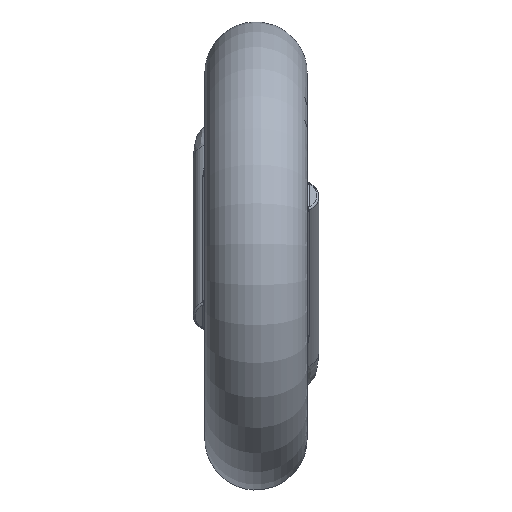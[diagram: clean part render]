
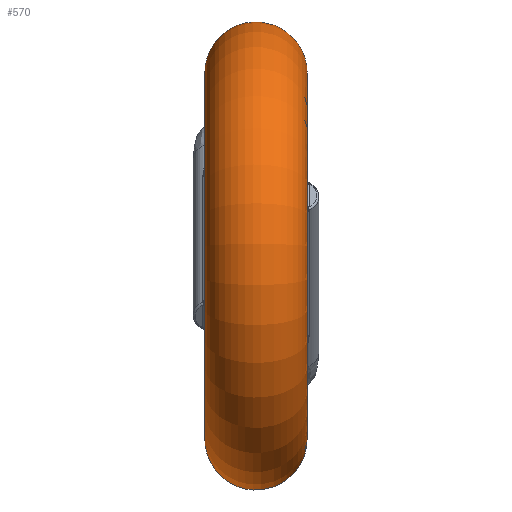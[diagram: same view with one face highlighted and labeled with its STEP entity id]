
A CAD part, left-side view. The second image highlights one B-rep face of the part: STEP entity #570.
In plain terms, the highlighted toroidal (fillet/blend) face has major radius 8.445 mm and minor radius 2.355 mm.
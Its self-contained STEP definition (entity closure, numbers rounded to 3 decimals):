
#20=TOROIDAL_SURFACE('',#632,8.445,2.355);
#81=B_SPLINE_CURVE_WITH_KNOTS('',3,(#1661,#1662,#1663,#1664,#1665,#1666,
#1667,#1668,#1669,#1670,#1671,#1672,#1673,#1674,#1675),.UNSPECIFIED.,.F.,
 .F.,(4,1,1,1,1,1,1,1,1,1,1,1,4),(-0.8,-0.743,
-0.686,-0.571,-0.457,-0.4,
-0.343,-0.286,-0.229,-0.171,
-0.114,-0.086,0.),.UNSPECIFIED.);
#82=B_SPLINE_CURVE_WITH_KNOTS('',3,(#1681,#1682,#1683,#1684,#1685,#1686,
#1687,#1688,#1689,#1690,#1691,#1692,#1693,#1694,#1695),.UNSPECIFIED.,.F.,
 .F.,(4,1,1,1,1,1,1,1,1,1,1,1,4),(-0.8,-0.743,
-0.686,-0.571,-0.457,-0.4,
-0.343,-0.286,-0.229,-0.171,
-0.114,-0.086,0.),.UNSPECIFIED.);
#97=FACE_BOUND('',#171,.T.);
#129=FACE_OUTER_BOUND('',#170,.T.);
#170=EDGE_LOOP('',(#453,#454));
#171=EDGE_LOOP('',(#455,#456));
#215=CIRCLE('',#633,8.445);
#216=CIRCLE('',#634,8.445);
#259=VERTEX_POINT('',#1551);
#260=VERTEX_POINT('',#1659);
#261=VERTEX_POINT('',#1679);
#262=VERTEX_POINT('',#1680);
#330=EDGE_CURVE('',#260,#259,#81,.T.);
#332=EDGE_CURVE('',#261,#262,#82,.T.);
#333=EDGE_CURVE('',#261,#262,#215,.T.);
#334=EDGE_CURVE('',#260,#259,#216,.T.);
#453=ORIENTED_EDGE('',*,*,#332,.T.);
#454=ORIENTED_EDGE('',*,*,#333,.F.);
#455=ORIENTED_EDGE('',*,*,#330,.T.);
#456=ORIENTED_EDGE('',*,*,#334,.F.);
#570=ADVANCED_FACE('',(#129,#97),#20,.T.);
#632=AXIS2_PLACEMENT_3D('',#1678,#759,#760);
#633=AXIS2_PLACEMENT_3D('',#1696,#761,#762);
#634=AXIS2_PLACEMENT_3D('',#1697,#763,#764);
#759=DIRECTION('center_axis',(0.,1.,0.));
#760=DIRECTION('ref_axis',(1.,0.,0.));
#761=DIRECTION('center_axis',(0.,-1.,0.));
#762=DIRECTION('ref_axis',(-1.,0.,0.));
#763=DIRECTION('center_axis',(0.,1.,0.));
#764=DIRECTION('ref_axis',(-1.,0.,0.));
#1551=CARTESIAN_POINT('',(7.544,3.9,3.795));
#1659=CARTESIAN_POINT('',(8.245,3.9,1.829));
#1661=CARTESIAN_POINT('Ctrl Pts',(8.245,3.9,1.829));
#1662=CARTESIAN_POINT('Ctrl Pts',(8.378,3.9,1.949));
#1663=CARTESIAN_POINT('Ctrl Pts',(8.658,3.868,2.169));
#1664=CARTESIAN_POINT('Ctrl Pts',(9.231,3.663,2.533));
#1665=CARTESIAN_POINT('Ctrl Pts',(9.854,3.137,2.932));
#1666=CARTESIAN_POINT('Ctrl Pts',(10.001,2.473,3.608));
#1667=CARTESIAN_POINT('Ctrl Pts',(9.79,2.248,4.311));
#1668=CARTESIAN_POINT('Ctrl Pts',(9.527,2.316,4.822));
#1669=CARTESIAN_POINT('Ctrl Pts',(9.196,2.646,5.16));
#1670=CARTESIAN_POINT('Ctrl Pts',(8.863,3.087,5.155));
#1671=CARTESIAN_POINT('Ctrl Pts',(8.556,3.448,4.909));
#1672=CARTESIAN_POINT('Ctrl Pts',(8.302,3.663,4.614));
#1673=CARTESIAN_POINT('Ctrl Pts',(7.983,3.845,4.231));
#1674=CARTESIAN_POINT('Ctrl Pts',(7.744,3.9,3.969));
#1675=CARTESIAN_POINT('Ctrl Pts',(7.544,3.9,3.795));
#1678=CARTESIAN_POINT('Origin',(0.,1.545,0.));
#1679=CARTESIAN_POINT('',(8.245,-0.81,-1.829));
#1680=CARTESIAN_POINT('',(7.544,-0.81,-3.795));
#1681=CARTESIAN_POINT('Ctrl Pts',(8.245,-0.81,-1.829));
#1682=CARTESIAN_POINT('Ctrl Pts',(8.378,-0.81,-1.949));
#1683=CARTESIAN_POINT('Ctrl Pts',(8.658,-0.778,-2.169));
#1684=CARTESIAN_POINT('Ctrl Pts',(9.231,-0.573,-2.533));
#1685=CARTESIAN_POINT('Ctrl Pts',(9.854,-0.047,
-2.932));
#1686=CARTESIAN_POINT('Ctrl Pts',(10.001,0.617,-3.608));
#1687=CARTESIAN_POINT('Ctrl Pts',(9.79,0.842,-4.311));
#1688=CARTESIAN_POINT('Ctrl Pts',(9.527,0.774,-4.822));
#1689=CARTESIAN_POINT('Ctrl Pts',(9.196,0.444,-5.16));
#1690=CARTESIAN_POINT('Ctrl Pts',(8.863,0.003,
-5.155));
#1691=CARTESIAN_POINT('Ctrl Pts',(8.556,-0.358,-4.909));
#1692=CARTESIAN_POINT('Ctrl Pts',(8.302,-0.573,-4.614));
#1693=CARTESIAN_POINT('Ctrl Pts',(7.983,-0.755,-4.231));
#1694=CARTESIAN_POINT('Ctrl Pts',(7.744,-0.81,-3.969));
#1695=CARTESIAN_POINT('Ctrl Pts',(7.544,-0.81,-3.795));
#1696=CARTESIAN_POINT('Origin',(0.,-0.81,0.));
#1697=CARTESIAN_POINT('Origin',(0.,3.9,0.));
